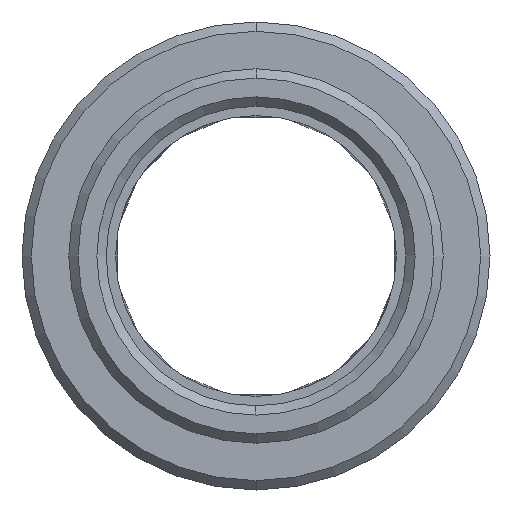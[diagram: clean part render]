
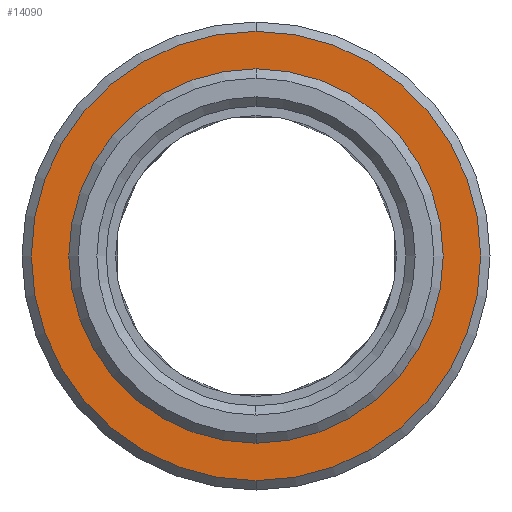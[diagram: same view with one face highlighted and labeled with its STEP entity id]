
A CAD part, left-side view. The second image highlights one B-rep face of the part: STEP entity #14090.
In plain terms, the highlighted planar face has unit normal (-1, 0, 0).
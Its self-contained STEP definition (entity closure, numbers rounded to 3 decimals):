
#5544=CARTESIAN_POINT('',(0.,0.,0.));
#5545=DIRECTION('',(1.,0.,0.));
#5546=DIRECTION('',(0.,0.,1.));
#5547=AXIS2_PLACEMENT_3D('',#5544,#5545,#5546);
#5549=CARTESIAN_POINT('',(0.,0.,0.));
#5550=DIRECTION('',(-1.,0.,0.));
#5551=DIRECTION('',(0.,0.,1.));
#5552=AXIS2_PLACEMENT_3D('',#5549,#5550,#5551);
#5554=CARTESIAN_POINT('',(0.,0.,0.));
#5555=DIRECTION('',(1.,0.,0.));
#5556=DIRECTION('',(0.,0.,-1.));
#5557=AXIS2_PLACEMENT_3D('',#5554,#5555,#5556);
#5559=CARTESIAN_POINT('',(0.,0.,0.));
#5560=DIRECTION('',(1.,0.,0.));
#5561=DIRECTION('',(0.,0.,1.));
#5562=AXIS2_PLACEMENT_3D('',#5559,#5560,#5561);
#11274=CARTESIAN_POINT('',(0.,0.,-12.));
#11275=CARTESIAN_POINT('',(0.,0.,12.));
#11276=VERTEX_POINT('',#11274);
#11277=VERTEX_POINT('',#11275);
#11590=CARTESIAN_POINT('',(0.,0.,10.));
#11591=CARTESIAN_POINT('',(0.,0.,-10.));
#11592=VERTEX_POINT('',#11590);
#11593=VERTEX_POINT('',#11591);
#14075=CARTESIAN_POINT('',(0.,0.,0.));
#14076=DIRECTION('',(1.,0.,0.));
#14077=DIRECTION('',(0.,0.,1.));
#14078=AXIS2_PLACEMENT_3D('',#14075,#14076,#14077);
#14079=PLANE('',#14078);
#14081=ORIENTED_EDGE('',*,*,#14080,.T.);
#14083=ORIENTED_EDGE('',*,*,#14082,.T.);
#14084=EDGE_LOOP('',(#14081,#14083));
#14085=FACE_OUTER_BOUND('',#14084,.F.);
#14086=ORIENTED_EDGE('',*,*,#14042,.F.);
#14087=ORIENTED_EDGE('',*,*,#14057,.T.);
#14088=EDGE_LOOP('',(#14086,#14087));
#14089=FACE_BOUND('',#14088,.F.);
#14090=ADVANCED_FACE('',(#14085,#14089),#14079,.F.);
#5548=CIRCLE('',#5547,10.);
#5553=CIRCLE('',#5552,10.);
#5558=CIRCLE('',#5557,12.);
#5563=CIRCLE('',#5562,12.);
#14042=EDGE_CURVE('',#11592,#11593,#5548,.T.);
#14057=EDGE_CURVE('',#11592,#11593,#5553,.T.);
#14080=EDGE_CURVE('',#11276,#11277,#5558,.T.);
#14082=EDGE_CURVE('',#11277,#11276,#5563,.T.);
